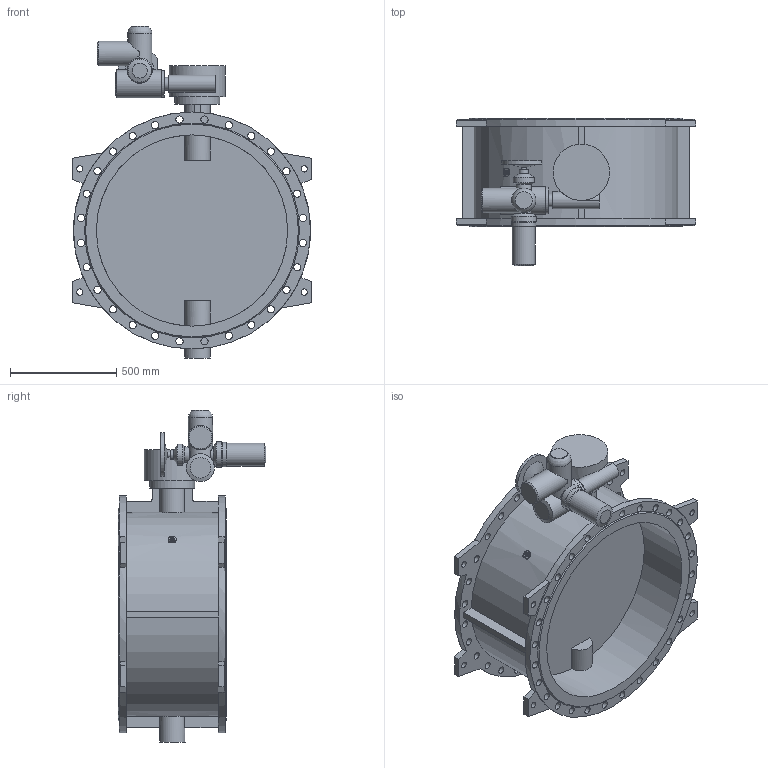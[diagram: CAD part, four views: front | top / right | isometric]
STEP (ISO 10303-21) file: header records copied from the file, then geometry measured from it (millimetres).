
FILE_DESCRIPTION(('STEP AP203'), '1');
FILE_NAME('Çàòâîð 023F.Z DN900 PN10 + ðåäóêòîð + ÌÒ903.À10', '', ('UNSPECIFIED'), ('UNSPECIFIED'), 'ASCON STEP Converter 1.6', 'ASCON Math Kernel', '');
FILE_SCHEMA(('CONFIG_CONTROL_DESIGN'));
Length unit declared in the file: millimetre
Bounding box: 1126 x 695.5 x 1562 mm (x, y, z)
Volume: 130564541.6 mm3; surface area: 6547859.9 mm2
Topology: 1 solids, 1 shells, 244 faces, 609 edges, 400 vertices
Faces by surface type: cylinder 123, plane 109, cone 11, torus 1
Full cylindrical faces by diameter (mm): 8.5 x4, 12 x4, 18.5 x4, 23 x4, 24 x1, 30 x8, 34 x56, 42 x1, 60 x1, 66 x1, 72 x1, 80 x2, 100 x1, 108 x1, 114 x1, 115 x1, 116 x1, 119 x1, 120 x1, 125 x1, 132 x1, 210 x1, 265 x1, 900 x2, 1115 x2
Entity records: 11200 total; most frequent: CARTESIAN_POINT 3417, DIRECTION 1208, ORIENTED_EDGE 982, EDGE_LOOP 522, AXIS2_PLACEMENT_3D 507, EDGE_CURVE 491, VERTEX_POINT 399, FACE_BOUND 304
